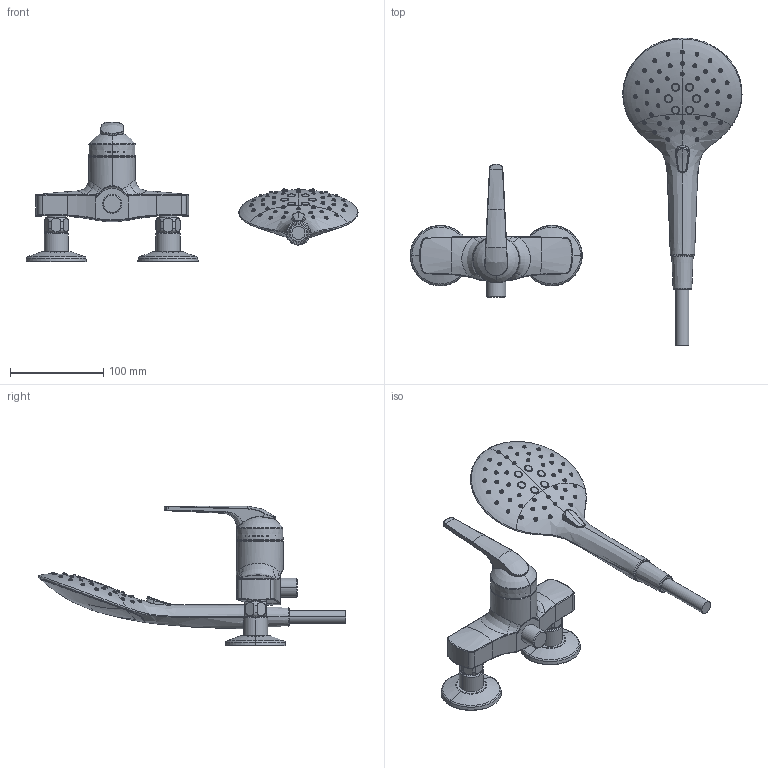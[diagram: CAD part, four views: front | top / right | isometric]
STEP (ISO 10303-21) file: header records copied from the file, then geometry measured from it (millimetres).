
FILE_DESCRIPTION((''),'2;1');
FILE_NAME('21062050_01','2019-03-21T',('TS966'),(''),'CREO PARAMETRIC BY PTC INC, 2016260','CREO PARAMETRIC BY PTC INC, 2016260','');
FILE_SCHEMA(('CONFIG_CONTROL_DESIGN'));
Products named in the file (1): 21062050_01
Bounding box: 356.45 x 330.48 x 150 mm (x, y, z)
Volume: 704062.4 mm3; surface area: 111029.2 mm2
Topology: 3 solids, 3 shells, 1293 faces, 2847 edges, 1667 vertices
Faces by surface type: cone 339, bspline 319, torus 237, cylinder 154, plane 111, revolution 80, sphere 49, extrusion 4
Entity records: 63997 total; most frequent: CARTESIAN_POINT 38106, ORIENTED_EDGE 5682, DIRECTION 4818, EDGE_CURVE 2841, AXIS2_PLACEMENT_3D 2070, VERTEX_POINT 1667, EDGE_LOOP 1408, FACE_OUTER_BOUND 1293
